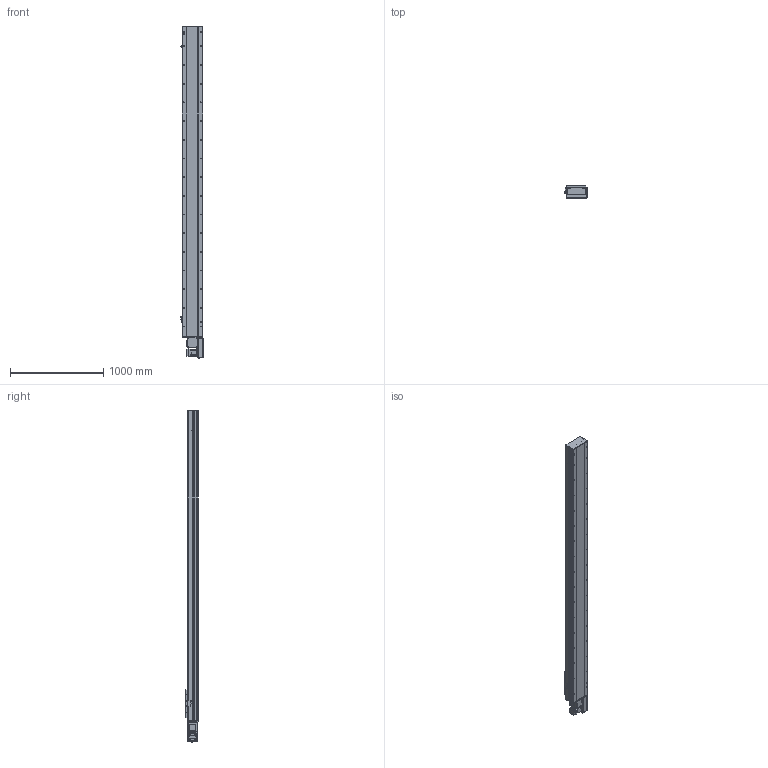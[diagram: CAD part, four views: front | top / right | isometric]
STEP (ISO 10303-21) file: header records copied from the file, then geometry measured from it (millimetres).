
FILE_DESCRIPTION (( 'STEP AP214' ), '1' );
FILE_NAME ('TPE22-L40-2900-L-T75-C4.STEP', '2023-04-12T10:13:08', ( '' ), ( '' ), 'SwSTEP 2.0', 'SolidWorks 2020', '' );
FILE_SCHEMA (( 'AUTOMOTIVE_DESIGN' ));
Length unit declared in the file: millimetre
Products named in the file (10): 葩璃 TPT22-L-009 萇儂啣^TPE22-L40-L-T75-C4; 葩璃 pm-t65-672^TPE22-L40-L-T75-C4; TPE22-L40-2900-L-T75-C4; 葩璃 MSMD08PC_P75^TPE22-L40-L-T75-C4; 葩璃 TPE22-L-001 菁釱MZ-220-01^TPE22-L40-L-T75-C4; 葩璃 TPE22-L-007 々湍釱^TPE22-L40-L-T75-C4; 葩璃 TPE22 賑雄殤^TPE22-L40-L-T75-C4; 葩璃 TPE22-L-002 耜裔ZTMZ-220-04^TPE22-L40-L-T75-C4; hexagon head bolts-full thread gb_GB_FASTENER_BOLT_STBAB A M5X16-N; 葩璃 詩湍150^TPE22-L40-L-T75-C4
Assembly tree (12 placements, depth 2):
  TPE22-L40-2900-L-T75-C4
    葩璃 TPE22-L-001 菁釱MZ-220-01^TPE22-L40-L-T75-C4
    葩璃 TPE22-L-002 耜裔ZTMZ-220-04^TPE22-L40-L-T75-C4  x2
    葩璃 詩湍150^TPE22-L40-L-T75-C4
    葩璃 TPE22-L-007 々湍釱^TPE22-L40-L-T75-C4
    葩璃 TPT22-L-009 萇儂啣^TPE22-L40-L-T75-C4
    葩璃 TPE22 賑雄殤^TPE22-L40-L-T75-C4
    葩璃 pm-t65-672^TPE22-L40-L-T75-C4  x3
    葩璃 MSMD08PC_P75^TPE22-L40-L-T75-C4
    hexagon head bolts-full thread gb_GB_FASTENER_BOLT_STBAB A M5X16-N
Bounding box: 239.2 x 138 x 3555.65 mm (x, y, z)
Volume: 37897994.1 mm3; surface area: 5284907.9 mm2
Topology: 22 solids, 22 shells, 1821 faces, 4779 edges, 3025 vertices
Faces by surface type: plane 1039, cylinder 608, cone 144, bspline 30
Entity records: 51674 total; most frequent: CARTESIAN_POINT 10543, DIRECTION 8130, ORIENTED_EDGE 7974, EDGE_CURVE 3987, AXIS2_PLACEMENT_3D 2717, VECTOR 2696, LINE 2696, VERTEX_POINT 2569
